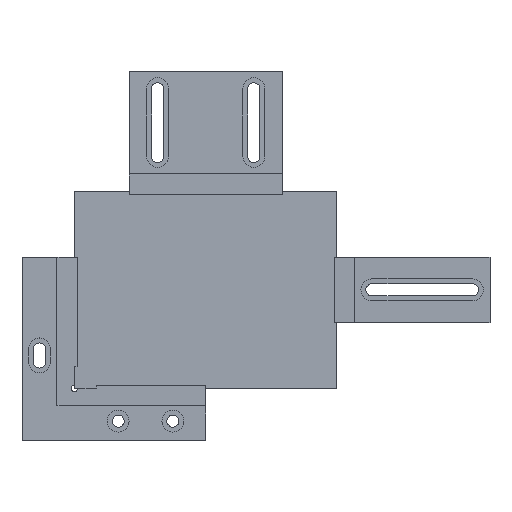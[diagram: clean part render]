
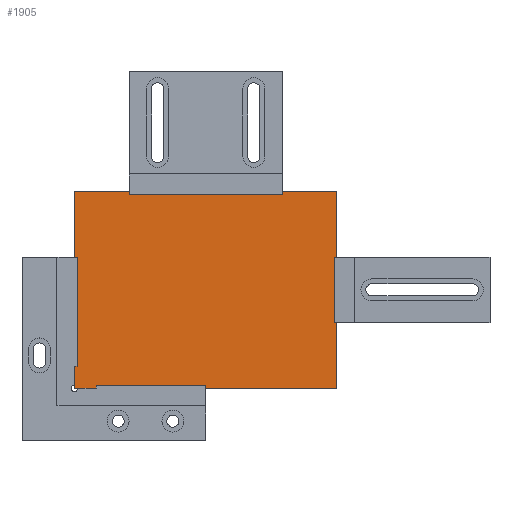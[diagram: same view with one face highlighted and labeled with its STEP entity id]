
A CAD part, top view. The second image highlights one B-rep face of the part: STEP entity #1905.
In plain terms, the highlighted planar face has unit normal (0, 0, 1).
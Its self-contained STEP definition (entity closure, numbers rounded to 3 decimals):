
#128=PLANE('',#2075);
#233=FACE_OUTER_BOUND('',#361,.T.);
#361=EDGE_LOOP('',(#1771,#1772,#1773,#1774));
#611=LINE('',#3110,#823);
#614=LINE('',#3116,#826);
#617=LINE('',#3122,#829);
#620=LINE('',#3126,#832);
#823=VECTOR('',#2573,10.);
#826=VECTOR('',#2578,10.);
#829=VECTOR('',#2583,10.);
#832=VECTOR('',#2588,10.);
#999=VERTEX_POINT('',#3107);
#1000=VERTEX_POINT('',#3109);
#1002=VERTEX_POINT('',#3115);
#1004=VERTEX_POINT('',#3121);
#1253=EDGE_CURVE('',#1000,#999,#611,.T.);
#1256=EDGE_CURVE('',#1002,#1000,#614,.T.);
#1259=EDGE_CURVE('',#1004,#1002,#617,.T.);
#1262=EDGE_CURVE('',#999,#1004,#620,.T.);
#1771=ORIENTED_EDGE('',*,*,#1262,.T.);
#1772=ORIENTED_EDGE('',*,*,#1259,.T.);
#1773=ORIENTED_EDGE('',*,*,#1256,.T.);
#1774=ORIENTED_EDGE('',*,*,#1253,.T.);
#1905=ADVANCED_FACE('',(#233),#128,.T.);
#2075=AXIS2_PLACEMENT_3D('',#3127,#2589,#2590);
#2573=DIRECTION('',(-1.,0.,0.));
#2578=DIRECTION('',(0.,1.,0.));
#2583=DIRECTION('',(1.,0.,0.));
#2588=DIRECTION('',(0.,-1.,0.));
#2589=DIRECTION('center_axis',(0.,0.,1.));
#2590=DIRECTION('ref_axis',(1.,0.,0.));
#3107=CARTESIAN_POINT('',(-90.,30.,65.2));
#3109=CARTESIAN_POINT('',(30.,30.,65.2));
#3110=CARTESIAN_POINT('',(30.,30.,65.2));
#3115=CARTESIAN_POINT('',(30.,-60.,65.2));
#3116=CARTESIAN_POINT('',(30.,-60.,65.2));
#3121=CARTESIAN_POINT('',(-90.,-60.,65.2));
#3122=CARTESIAN_POINT('',(-90.,-60.,65.2));
#3126=CARTESIAN_POINT('',(-90.,30.,65.2));
#3127=CARTESIAN_POINT('Origin',(-30.,-15.,65.2));
